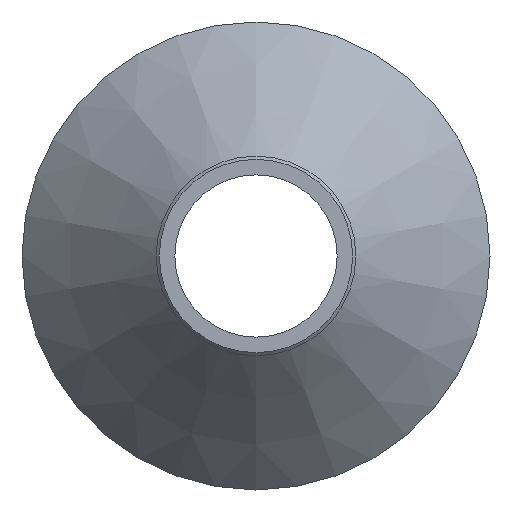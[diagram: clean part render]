
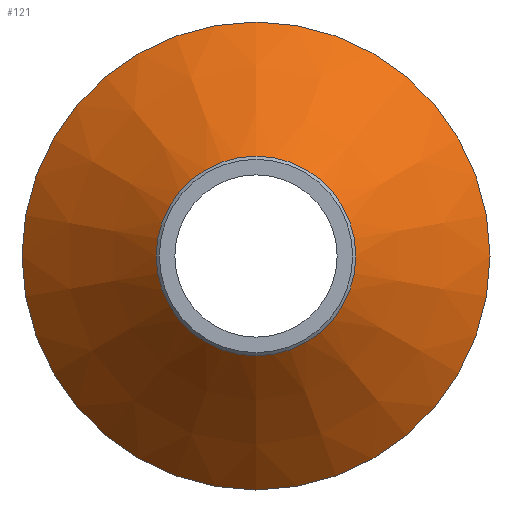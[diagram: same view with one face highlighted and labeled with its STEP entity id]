
A CAD part, left-side view. The second image highlights one B-rep face of the part: STEP entity #121.
In plain terms, the highlighted conical face has half-angle 44.341 degrees and reference radius 37.5 mm.
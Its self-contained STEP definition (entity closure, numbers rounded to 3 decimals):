
#22=CONICAL_SURFACE('',#146,37.5,0.774);
#28=ORIENTED_EDGE('',*,*,#48,.F.);
#29=ORIENTED_EDGE('',*,*,#47,.T.);
#47=EDGE_CURVE('',#57,#57,#67,.T.);
#48=EDGE_CURVE('',#58,#58,#68,.T.);
#57=VERTEX_POINT('',#210);
#58=VERTEX_POINT('',#213);
#67=CIRCLE('',#145,37.5);
#68=CIRCLE('',#147,16.);
#78=EDGE_LOOP('',(#28));
#79=EDGE_LOOP('',(#29));
#98=FACE_BOUND('',#78,.T.);
#99=FACE_BOUND('',#79,.T.);
#121=ADVANCED_FACE('',(#98,#99),#22,.T.);
#145=AXIS2_PLACEMENT_3D('',#209,#169,#170);
#146=AXIS2_PLACEMENT_3D('',#211,#171,#172);
#147=AXIS2_PLACEMENT_3D('',#212,#173,#174);
#169=DIRECTION('',(-1.,0.,0.));
#170=DIRECTION('',(0.,0.,1.));
#171=DIRECTION('',(1.,0.,0.));
#172=DIRECTION('',(0.,0.,-1.));
#173=DIRECTION('',(-1.,0.,0.));
#174=DIRECTION('',(0.,0.,1.));
#209=CARTESIAN_POINT('',(11.,0.,0.));
#210=CARTESIAN_POINT('',(11.,0.,37.5));
#211=CARTESIAN_POINT('',(11.,0.,0.));
#212=CARTESIAN_POINT('',(-11.,0.,0.));
#213=CARTESIAN_POINT('',(-11.,0.,16.));
